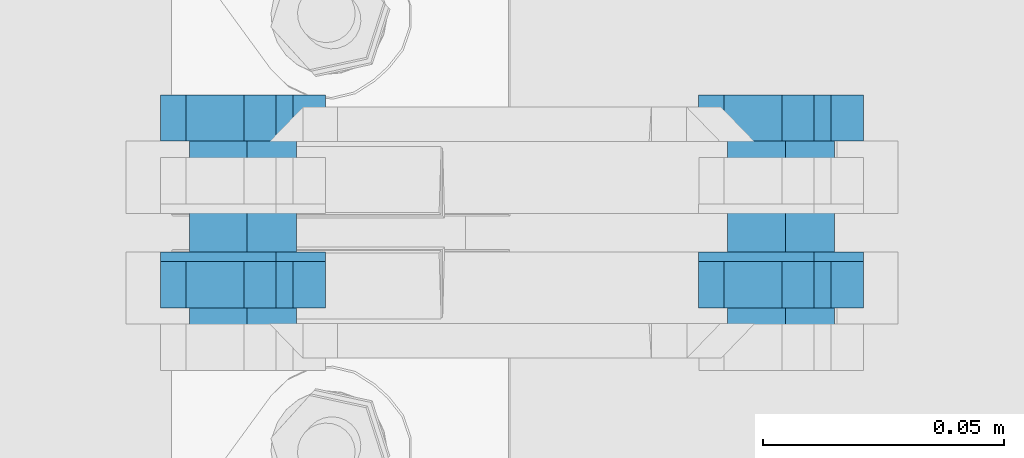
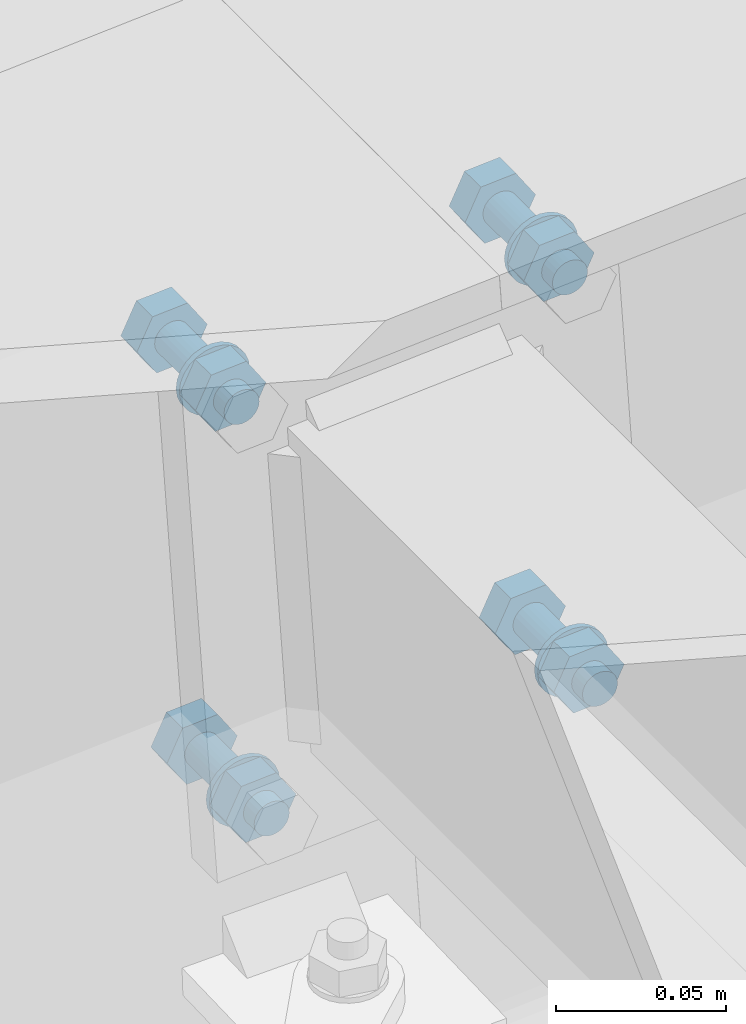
# One storey, part 62 of 72: 16 mechanical fasteners.
"""IFC4 building model written with IfcOpenShell, lengths in metres."""

from ifc_helpers import new_model, si_unit, frame, origin_with_axes, place, context, project, spatial, polyline, outline, extrude, type_object, element, save


model = new_model("IFC4")

# Units and contexts
model_context = context("Model", 3, precision=1e-05, world=origin_with_axes())
ifc_project = project(units=[si_unit("LENGTHUNIT", "METRE"), si_unit("AREAUNIT", "SQUARE_METRE"), si_unit("VOLUMEUNIT", "CUBIC_METRE"), si_unit("MASSUNIT", "GRAM", prefix="KILO"), si_unit("TIMEUNIT", "SECOND"), si_unit("PLANEANGLEUNIT", "RADIAN"), si_unit("SOLIDANGLEUNIT", "STERADIAN"), si_unit("THERMODYNAMICTEMPERATUREUNIT", "DEGREE_CELSIUS")], contexts=[model_context])

# Site, building, storey
placement_1 = place(None, origin_with_axes())
site = spatial("IfcSite", under=ifc_project, at=placement_1, Name="Italia", CompositionType="ELEMENT")
building = spatial("IfcBuilding", under=site, at=placement_1, Name="Pensilina", CompositionType="ELEMENT")
storey = spatial("IfcBuildingStorey", under=building, at=placement_1, Name="Storey 0", CompositionType="ELEMENT", Elevation=0.0)

# Mechanical fasteners
mechanical_fastener_type_1 = type_object("IfcMechanicalFastenerType", Name="Collegamento 0604_0605", PredefinedType="BOLT")
placement_2 = place(placement_1, origin_with_axes())
mechanical_fastener_1_placement = place(placement_2, origin_with_axes())
element("IfcMechanicalFastener", 1, at=mechanical_fastener_1_placement, inside=storey, type_object=mechanical_fastener_type_1, Name="Collegamento 0604_0605", NominalDiameter=0.0119998, context=model_context, shape_type="SweptSolid", body=[
    extrude(outline(polyline([(0.0, 0.0, 0.0), (-0.0119729, 0.000807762, 0.0), (-0.0172596, 0.0115805, 0.0), (-0.0105739, 0.0215454, 0.0), (0.00139904, 0.0207374, 0.0), (0.00668573, 0.00996494, 0.0), (0.0, 0.0, 0.0)])), frame((5.86551, 15.859, 3.94275), z_axis=(0.0, 1.0, 0.0), x_axis=(-1.0, 0.0, 0.0)), (0.0, 0.0, 1.0), 0.00959969),
])
mechanical_fastener_type_2 = type_object("IfcMechanicalFastenerType", Name="Collegamento 0604_0605", PredefinedType="BOLT")
mechanical_fastener_2_placement = place(placement_2, origin_with_axes())
element("IfcMechanicalFastener", 2, at=mechanical_fastener_2_placement, inside=storey, type_object=mechanical_fastener_type_2, Name="Collegamento 0604_0605", NominalDiameter=0.012, context=model_context, shape_type="SweptSolid", body=[
    extrude(outline(polyline([(0.0, 0.0, 0.0), (-0.000204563, -0.00155282, 0.0), (-0.000803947, -0.00300002, 0.0), (-0.00175762, -0.00424266, 0.0), (-0.00300026, -0.00519609, 0.0), (-0.00444698, -0.00579548, 0.0), (-0.00600004, -0.00600004, 0.0), (-0.0075531, -0.00579548, 0.0), (-0.00899982, -0.00519609, 0.0), (-0.0102425, -0.00424266, 0.0), (-0.0111961, -0.00300002, 0.0), (-0.0117955, -0.00155282, 0.0), (-0.0120001, 0.0, 0.0), (-0.0117955, 0.00155282, 0.0), (-0.0111961, 0.00300002, 0.0), (-0.0102425, 0.00424266, 0.0), (-0.00899982, 0.00519609, 0.0), (-0.0075531, 0.00579548, 0.0), (-0.00600004, 0.00600004, 0.0), (-0.00444698, 0.00579548, 0.0), (-0.00300026, 0.00519609, 0.0), (-0.00175762, 0.00424266, 0.0), (-0.000803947, 0.00300002, 0.0), (-0.000204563, 0.00155282, 0.0), (0.0, 0.0, 0.0)])), frame((5.8648, 15.818, 3.95352), z_axis=(0.0, 1.0, 0.0), x_axis=(-1.0, 0.0, 0.0)), (0.0, 0.0, 1.0), 0.0410004),
])
mechanical_fastener_type_3 = type_object("IfcMechanicalFastenerType", Name="Collegamento 0604_0605", PredefinedType="BOLT")
mechanical_fastener_3_placement = place(placement_2, origin_with_axes())
element("IfcMechanicalFastener", 3, at=mechanical_fastener_3_placement, inside=storey, type_object=mechanical_fastener_type_3, Name="Collegamento 0604_0605", NominalDiameter=0.0119998, context=model_context, shape_type="SweptSolid", body=[
    extrude(outline(polyline([(0.0, 0.0, 0.0), (-0.0119729, 0.000807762, 0.0), (-0.0172596, 0.0115805, 0.0), (-0.0105739, 0.0215454, 0.0), (0.00139904, 0.0207374, 0.0), (0.00668573, 0.00996494, 0.0), (0.0, 0.0, 0.0)])), frame((5.86551, 15.8244, 3.94275), z_axis=(0.0, 1.0, 0.0), x_axis=(-1.0, 0.0, 0.0)), (0.0, 0.0, 1.0), 0.00959969),
])
mechanical_fastener_type_4 = type_object("IfcMechanicalFastenerType", Name="Collegamento 0604_0605", PredefinedType="BOLT")
mechanical_fastener_4_placement = place(placement_2, origin_with_axes())
element("IfcMechanicalFastener", 4, at=mechanical_fastener_4_placement, inside=storey, type_object=mechanical_fastener_type_4, Name="Collegamento 0604_0605", NominalDiameter=0.024, context=model_context, shape_type="SweptSolid", body=[
    extrude(outline(polyline([(0.0, 0.0, 0.0), (-0.000409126, -0.00310588, 0.0), (-0.00160789, -0.00600004, 0.0), (-0.00351477, -0.00848532, 0.0), (-0.00600004, -0.0103922, 0.0), (-0.00889444, -0.0115912, 0.0), (-0.0120001, -0.0120001, 0.0), (-0.0151057, -0.0115912, 0.0), (-0.0180001, -0.0103922, 0.0), (-0.0204854, -0.00848532, 0.0), (-0.0223923, -0.00600004, 0.0), (-0.023591, -0.00310588, 0.0), (-0.0240002, 0.0, 0.0), (-0.023591, 0.00310588, 0.0), (-0.0223923, 0.00600004, 0.0), (-0.0204854, 0.00848532, 0.0), (-0.0180001, 0.0103922, 0.0), (-0.0151057, 0.0115912, 0.0), (-0.0120001, 0.0120001, 0.0), (-0.00889444, 0.0115912, 0.0), (-0.00600004, 0.0103922, 0.0), (-0.00351477, 0.00848532, 0.0), (-0.00160789, 0.00600004, 0.0), (-0.000409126, 0.00310588, 0.0), (0.0, 0.0, 0.0)])), frame((5.8588, 15.834, 3.95352), z_axis=(0.0, 1.0, 0.0), x_axis=(-1.0, 0.0, 0.0)), (0.0, 0.0, 1.0), 0.00199986),
])
mechanical_fastener_type_5 = type_object("IfcMechanicalFastenerType", Name="Collegamento 0604_0605", PredefinedType="BOLT")
mechanical_fastener_5_placement = place(placement_2, origin_with_axes())
element("IfcMechanicalFastener", 5, at=mechanical_fastener_5_placement, inside=storey, type_object=mechanical_fastener_type_5, Name="Collegamento 0604_0605", NominalDiameter=0.0119998, context=model_context, shape_type="SweptSolid", body=[
    extrude(outline(polyline([(0.0, 0.0, 0.0), (-0.0119729, 0.000807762, 0.0), (-0.0172596, 0.0115805, 0.0), (-0.0105739, 0.0215454, 0.0), (0.00139904, 0.0207374, 0.0), (0.00668573, 0.00996494, 0.0), (0.0, 0.0, 0.0)])), frame((5.75377, 15.859, 3.93521), z_axis=(0.0, 1.0, 0.0), x_axis=(-1.0, 0.0, 0.0)), (0.0, 0.0, 1.0), 0.00959969),
])
mechanical_fastener_type_6 = type_object("IfcMechanicalFastenerType", Name="Collegamento 0604_0605", PredefinedType="BOLT")
mechanical_fastener_6_placement = place(placement_2, origin_with_axes())
element("IfcMechanicalFastener", 6, at=mechanical_fastener_6_placement, inside=storey, type_object=mechanical_fastener_type_6, Name="Collegamento 0604_0605", NominalDiameter=0.012, context=model_context, shape_type="SweptSolid", body=[
    extrude(outline(polyline([(0.0, 0.0, 0.0), (-0.000204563, -0.00155282, 0.0), (-0.000803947, -0.00300002, 0.0), (-0.00175762, -0.00424266, 0.0), (-0.00300026, -0.00519609, 0.0), (-0.00444698, -0.00579548, 0.0), (-0.00600004, -0.00600004, 0.0), (-0.0075531, -0.00579548, 0.0), (-0.00899982, -0.00519609, 0.0), (-0.0102425, -0.00424266, 0.0), (-0.0111961, -0.00300002, 0.0), (-0.0117955, -0.00155282, 0.0), (-0.0120001, 0.0, 0.0), (-0.0117955, 0.00155282, 0.0), (-0.0111961, 0.00300002, 0.0), (-0.0102425, 0.00424266, 0.0), (-0.00899982, 0.00519609, 0.0), (-0.0075531, 0.00579548, 0.0), (-0.00600004, 0.00600004, 0.0), (-0.00444698, 0.00579548, 0.0), (-0.00300026, 0.00519609, 0.0), (-0.00175762, 0.00424266, 0.0), (-0.000803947, 0.00300002, 0.0), (-0.000204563, 0.00155282, 0.0), (0.0, 0.0, 0.0)])), frame((5.75306, 15.818, 3.94598), z_axis=(0.0, 1.0, 0.0), x_axis=(-1.0, 0.0, 0.0)), (0.0, 0.0, 1.0), 0.0410004),
])
mechanical_fastener_type_7 = type_object("IfcMechanicalFastenerType", Name="Collegamento 0604_0605", PredefinedType="BOLT")
mechanical_fastener_7_placement = place(placement_2, origin_with_axes())
element("IfcMechanicalFastener", 7, at=mechanical_fastener_7_placement, inside=storey, type_object=mechanical_fastener_type_7, Name="Collegamento 0604_0605", NominalDiameter=0.0119998, context=model_context, shape_type="SweptSolid", body=[
    extrude(outline(polyline([(0.0, 0.0, 0.0), (-0.0119729, 0.000807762, 0.0), (-0.0172596, 0.0115805, 0.0), (-0.0105739, 0.0215454, 0.0), (0.00139904, 0.0207374, 0.0), (0.00668573, 0.00996494, 0.0), (0.0, 0.0, 0.0)])), frame((5.75377, 15.8244, 3.93521), z_axis=(0.0, 1.0, 0.0), x_axis=(-1.0, 0.0, 0.0)), (0.0, 0.0, 1.0), 0.00959969),
])
mechanical_fastener_type_8 = type_object("IfcMechanicalFastenerType", Name="Collegamento 0604_0605", PredefinedType="BOLT")
mechanical_fastener_8_placement = place(placement_2, origin_with_axes())
element("IfcMechanicalFastener", 8, at=mechanical_fastener_8_placement, inside=storey, type_object=mechanical_fastener_type_8, Name="Collegamento 0604_0605", NominalDiameter=0.024, context=model_context, shape_type="SweptSolid", body=[
    extrude(outline(polyline([(0.0, 0.0, 0.0), (-0.000409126, -0.00310588, 0.0), (-0.00160789, -0.00600004, 0.0), (-0.00351477, -0.00848532, 0.0), (-0.00600004, -0.0103922, 0.0), (-0.00889444, -0.0115912, 0.0), (-0.0120001, -0.0120001, 0.0), (-0.0151057, -0.0115912, 0.0), (-0.0180001, -0.0103922, 0.0), (-0.0204854, -0.00848532, 0.0), (-0.0223923, -0.00600004, 0.0), (-0.023591, -0.00310588, 0.0), (-0.0240002, 0.0, 0.0), (-0.023591, 0.00310588, 0.0), (-0.0223923, 0.00600004, 0.0), (-0.0204854, 0.00848532, 0.0), (-0.0180001, 0.0103922, 0.0), (-0.0151057, 0.0115912, 0.0), (-0.0120001, 0.0120001, 0.0), (-0.00889444, 0.0115912, 0.0), (-0.00600004, 0.0103922, 0.0), (-0.00351477, 0.00848532, 0.0), (-0.00160789, 0.00600004, 0.0), (-0.000409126, 0.00310588, 0.0), (0.0, 0.0, 0.0)])), frame((5.74706, 15.834, 3.94598), z_axis=(0.0, 1.0, 0.0), x_axis=(-1.0, 0.0, 0.0)), (0.0, 0.0, 1.0), 0.00199986),
])
mechanical_fastener_type_9 = type_object("IfcMechanicalFastenerType", Name="Collegamento 0604_0605", PredefinedType="BOLT")
mechanical_fastener_9_placement = place(placement_2, origin_with_axes())
element("IfcMechanicalFastener", 9, at=mechanical_fastener_9_placement, inside=storey, type_object=mechanical_fastener_type_9, Name="Collegamento 0604_0605", NominalDiameter=0.012, context=model_context, shape_type="SweptSolid", body=[
    extrude(outline(polyline([(0.0, 0.0, 0.0), (-0.0119729, 0.000807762, 0.0), (-0.0172596, 0.0115805, 0.0), (-0.0105739, 0.0215454, 0.0), (0.00139904, 0.0207376, 0.0), (0.00668573, 0.00996494, 0.0), (0.0, 0.0, 0.0)])), frame((5.85528, 15.859, 4.0944), z_axis=(0.0, 1.0, 0.0), x_axis=(-1.0, 0.0, 0.0)), (0.0, 0.0, 1.0), 0.00959969),
])
mechanical_fastener_type_10 = type_object("IfcMechanicalFastenerType", Name="Collegamento 0604_0605", PredefinedType="BOLT")
mechanical_fastener_10_placement = place(placement_2, origin_with_axes())
element("IfcMechanicalFastener", 10, at=mechanical_fastener_10_placement, inside=storey, type_object=mechanical_fastener_type_10, Name="Collegamento 0604_0605", NominalDiameter=0.012, context=model_context, shape_type="SweptSolid", body=[
    extrude(outline(polyline([(0.0, 0.0, 0.0), (-0.000204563, -0.00155306, 0.0), (-0.000803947, -0.00299978, 0.0), (-0.00175762, -0.00424242, 0.0), (-0.00300026, -0.00519609, 0.0), (-0.00444698, -0.00579548, 0.0), (-0.00600004, -0.00600004, 0.0), (-0.0075531, -0.00579548, 0.0), (-0.00899982, -0.00519609, 0.0), (-0.0102425, -0.00424242, 0.0), (-0.0111961, -0.00299978, 0.0), (-0.0117955, -0.00155306, 0.0), (-0.0120001, 0.0, 0.0), (-0.0117955, 0.00155306, 0.0), (-0.0111961, 0.00299978, 0.0), (-0.0102425, 0.00424242, 0.0), (-0.00899982, 0.00519609, 0.0), (-0.0075531, 0.00579548, 0.0), (-0.00600004, 0.00600004, 0.0), (-0.00444698, 0.00579548, 0.0), (-0.00300026, 0.00519609, 0.0), (-0.00175762, 0.00424242, 0.0), (-0.000803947, 0.00299978, 0.0), (-0.000204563, 0.00155306, 0.0), (0.0, 0.0, 0.0)])), frame((5.85457, 15.818, 4.10518), z_axis=(0.0, 1.0, 0.0), x_axis=(-1.0, 0.0, 0.0)), (0.0, 0.0, 1.0), 0.0410004),
])
mechanical_fastener_type_11 = type_object("IfcMechanicalFastenerType", Name="Collegamento 0604_0605", PredefinedType="BOLT")
mechanical_fastener_11_placement = place(placement_2, origin_with_axes())
element("IfcMechanicalFastener", 11, at=mechanical_fastener_11_placement, inside=storey, type_object=mechanical_fastener_type_11, Name="Collegamento 0604_0605", NominalDiameter=0.012, context=model_context, shape_type="SweptSolid", body=[
    extrude(outline(polyline([(0.0, 0.0, 0.0), (-0.0119729, 0.000807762, 0.0), (-0.0172596, 0.0115805, 0.0), (-0.0105739, 0.0215454, 0.0), (0.00139904, 0.0207376, 0.0), (0.00668573, 0.00996494, 0.0), (0.0, 0.0, 0.0)])), frame((5.85528, 15.8244, 4.0944), z_axis=(0.0, 1.0, 0.0), x_axis=(-1.0, 0.0, 0.0)), (0.0, 0.0, 1.0), 0.00959969),
])
mechanical_fastener_type_12 = type_object("IfcMechanicalFastenerType", Name="Collegamento 0604_0605", PredefinedType="BOLT")
mechanical_fastener_12_placement = place(placement_2, origin_with_axes())
element("IfcMechanicalFastener", 12, at=mechanical_fastener_12_placement, inside=storey, type_object=mechanical_fastener_type_12, Name="Collegamento 0604_0605", NominalDiameter=0.024, context=model_context, shape_type="SweptSolid", body=[
    extrude(outline(polyline([(0.0, 0.0, 0.0), (-0.000409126, -0.00310564, 0.0), (-0.00160789, -0.00600004, 0.0), (-0.00351477, -0.00848532, 0.0), (-0.00600004, -0.0103922, 0.0), (-0.00889444, -0.011591, 0.0), (-0.0120001, -0.0120001, 0.0), (-0.0151057, -0.011591, 0.0), (-0.0180001, -0.0103922, 0.0), (-0.0204854, -0.00848532, 0.0), (-0.0223923, -0.00600004, 0.0), (-0.023591, -0.00310564, 0.0), (-0.0240002, 0.0, 0.0), (-0.023591, 0.00310564, 0.0), (-0.0223923, 0.00600004, 0.0), (-0.0204854, 0.00848532, 0.0), (-0.0180001, 0.0103922, 0.0), (-0.0151057, 0.011591, 0.0), (-0.0120001, 0.0120001, 0.0), (-0.00889444, 0.011591, 0.0), (-0.00600004, 0.0103922, 0.0), (-0.00351477, 0.00848532, 0.0), (-0.00160789, 0.00600004, 0.0), (-0.000409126, 0.00310564, 0.0), (0.0, 0.0, 0.0)])), frame((5.84857, 15.834, 4.10518), z_axis=(0.0, 1.0, 0.0), x_axis=(-1.0, 0.0, 0.0)), (0.0, 0.0, 1.0), 0.00199986),
])
mechanical_fastener_type_13 = type_object("IfcMechanicalFastenerType", Name="Collegamento 0604_0605", PredefinedType="BOLT")
mechanical_fastener_13_placement = place(placement_2, origin_with_axes())
element("IfcMechanicalFastener", 13, at=mechanical_fastener_13_placement, inside=storey, type_object=mechanical_fastener_type_13, Name="Collegamento 0604_0605", NominalDiameter=0.012, context=model_context, shape_type="SweptSolid", body=[
    extrude(outline(polyline([(0.0, 0.0, 0.0), (-0.0119729, 0.000807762, 0.0), (-0.0172596, 0.0115805, 0.0), (-0.0105739, 0.0215454, 0.0), (0.00139904, 0.0207376, 0.0), (0.00668573, 0.00996494, 0.0), (0.0, 0.0, 0.0)])), frame((5.74354, 15.859, 4.08686), z_axis=(0.0, 1.0, 0.0), x_axis=(-1.0, 0.0, 0.0)), (0.0, 0.0, 1.0), 0.00959969),
])
mechanical_fastener_type_14 = type_object("IfcMechanicalFastenerType", Name="Collegamento 0604_0605", PredefinedType="BOLT")
mechanical_fastener_14_placement = place(placement_2, origin_with_axes())
element("IfcMechanicalFastener", 14, at=mechanical_fastener_14_placement, inside=storey, type_object=mechanical_fastener_type_14, Name="Collegamento 0604_0605", NominalDiameter=0.012, context=model_context, shape_type="SweptSolid", body=[
    extrude(outline(polyline([(0.0, 0.0, 0.0), (-0.000204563, -0.00155306, 0.0), (-0.000803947, -0.00299978, 0.0), (-0.00175762, -0.00424242, 0.0), (-0.00300026, -0.00519609, 0.0), (-0.00444698, -0.00579548, 0.0), (-0.00600004, -0.00600004, 0.0), (-0.0075531, -0.00579548, 0.0), (-0.00899982, -0.00519609, 0.0), (-0.0102425, -0.00424242, 0.0), (-0.0111961, -0.00299978, 0.0), (-0.0117955, -0.00155306, 0.0), (-0.0120001, 0.0, 0.0), (-0.0117955, 0.00155306, 0.0), (-0.0111961, 0.00299978, 0.0), (-0.0102425, 0.00424242, 0.0), (-0.00899982, 0.00519609, 0.0), (-0.0075531, 0.00579548, 0.0), (-0.00600004, 0.00600004, 0.0), (-0.00444698, 0.00579548, 0.0), (-0.00300026, 0.00519609, 0.0), (-0.00175762, 0.00424242, 0.0), (-0.000803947, 0.00299978, 0.0), (-0.000204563, 0.00155306, 0.0), (0.0, 0.0, 0.0)])), frame((5.74282, 15.818, 4.09764), z_axis=(0.0, 1.0, 0.0), x_axis=(-1.0, 0.0, 0.0)), (0.0, 0.0, 1.0), 0.0410004),
])
mechanical_fastener_type_15 = type_object("IfcMechanicalFastenerType", Name="Collegamento 0604_0605", PredefinedType="BOLT")
mechanical_fastener_15_placement = place(placement_2, origin_with_axes())
element("IfcMechanicalFastener", 15, at=mechanical_fastener_15_placement, inside=storey, type_object=mechanical_fastener_type_15, Name="Collegamento 0604_0605", NominalDiameter=0.012, context=model_context, shape_type="SweptSolid", body=[
    extrude(outline(polyline([(0.0, 0.0, 0.0), (-0.0119729, 0.000807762, 0.0), (-0.0172596, 0.0115805, 0.0), (-0.0105739, 0.0215454, 0.0), (0.00139904, 0.0207376, 0.0), (0.00668573, 0.00996494, 0.0), (0.0, 0.0, 0.0)])), frame((5.74354, 15.8244, 4.08686), z_axis=(0.0, 1.0, 0.0), x_axis=(-1.0, 0.0, 0.0)), (0.0, 0.0, 1.0), 0.00959969),
])
mechanical_fastener_type_16 = type_object("IfcMechanicalFastenerType", Name="Collegamento 0604_0605", PredefinedType="BOLT")
mechanical_fastener_16_placement = place(placement_2, origin_with_axes())
element("IfcMechanicalFastener", 16, at=mechanical_fastener_16_placement, inside=storey, type_object=mechanical_fastener_type_16, Name="Collegamento 0604_0605", NominalDiameter=0.024, context=model_context, shape_type="SweptSolid", body=[
    extrude(outline(polyline([(0.0, 0.0, 0.0), (-0.000409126, -0.00310564, 0.0), (-0.00160789, -0.00600004, 0.0), (-0.00351477, -0.00848532, 0.0), (-0.00600004, -0.0103922, 0.0), (-0.00889444, -0.011591, 0.0), (-0.0120001, -0.0120001, 0.0), (-0.0151057, -0.011591, 0.0), (-0.0180001, -0.0103922, 0.0), (-0.0204854, -0.00848532, 0.0), (-0.0223923, -0.00600004, 0.0), (-0.023591, -0.00310564, 0.0), (-0.0240002, 0.0, 0.0), (-0.023591, 0.00310564, 0.0), (-0.0223923, 0.00600004, 0.0), (-0.0204854, 0.00848532, 0.0), (-0.0180001, 0.0103922, 0.0), (-0.0151057, 0.011591, 0.0), (-0.0120001, 0.0120001, 0.0), (-0.00889444, 0.011591, 0.0), (-0.00600004, 0.0103922, 0.0), (-0.00351477, 0.00848532, 0.0), (-0.00160789, 0.00600004, 0.0), (-0.000409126, 0.00310564, 0.0), (0.0, 0.0, 0.0)])), frame((5.73682, 15.834, 4.09764), z_axis=(0.0, 1.0, 0.0), x_axis=(-1.0, 0.0, 0.0)), (0.0, 0.0, 1.0), 0.00199986),
])

save(model, "model.ifc")
